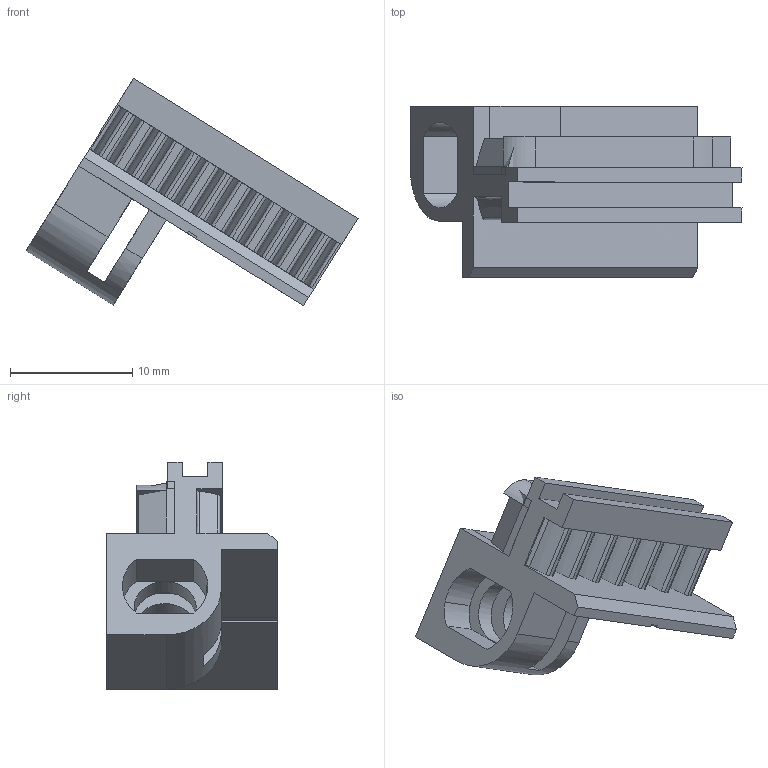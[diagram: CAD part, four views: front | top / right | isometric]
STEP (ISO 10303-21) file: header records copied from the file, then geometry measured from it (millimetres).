
FILE_DESCRIPTION(('CATIA V5 STEP Exchange'),'2;1');
FILE_NAME('G:\够快云库\系统集成开发部\1.部门成员\孙国\工装\切割工装\STP\0331\573.4601.04_V2 阻尼齿条.stp','2021-03-31T07:58:32+00:00',('none'),('none'),'CATIA Version 5 Release 20 GA (IN-10)','CATIA V5 STEP AP214','none');
FILE_SCHEMA(('AUTOMOTIVE_DESIGN { 1 0 10303 214 1 1 1 1 }'));
Length unit declared in the file: millimetre
Products named in the file (1): 产品8_AllCATPart
Bounding box: 27.16 x 14 x 18.61 mm (x, y, z)
Volume: 1477.6 mm3; surface area: 2281.7 mm2
Topology: 3 solids, 4 shells, 159 faces, 465 edges, 314 vertices
Faces by surface type: plane 96, cylinder 28, extrusion 21, bspline 14
Entity records: 5994 total; most frequent: CARTESIAN_POINT 2099, ORIENTED_EDGE 930, DIRECTION 577, EDGE_CURVE 465, VECTOR 321, VERTEX_POINT 314, LINE 300, EDGE_LOOP 165
